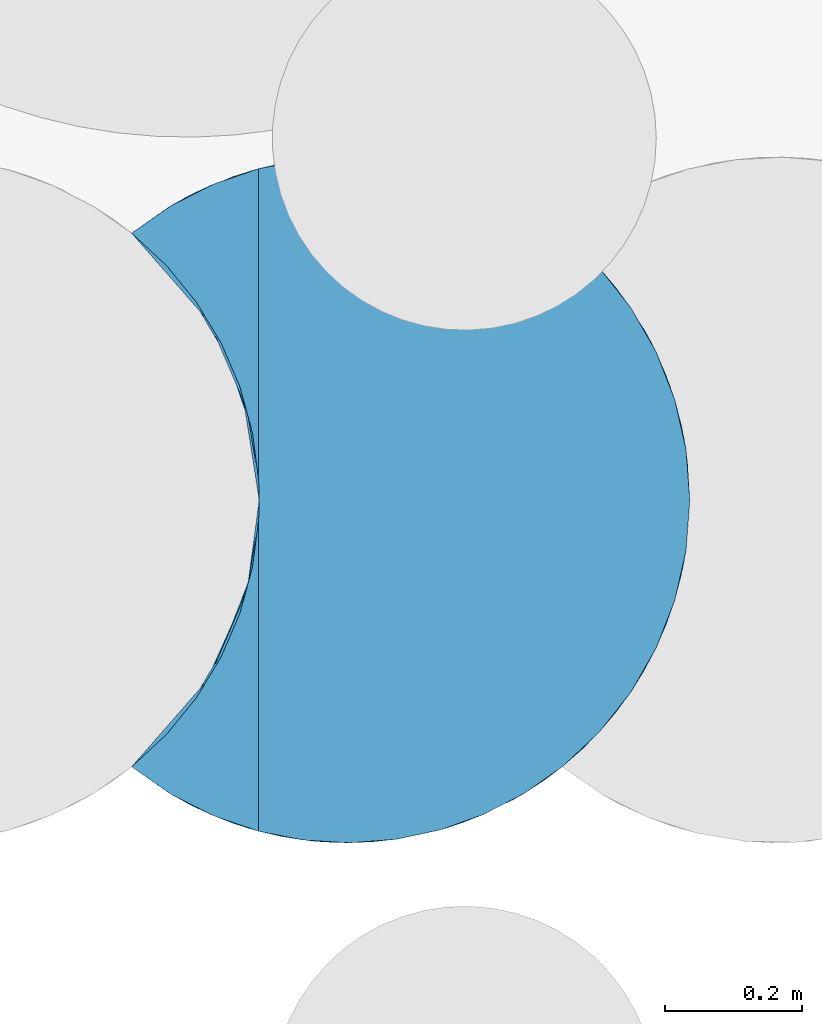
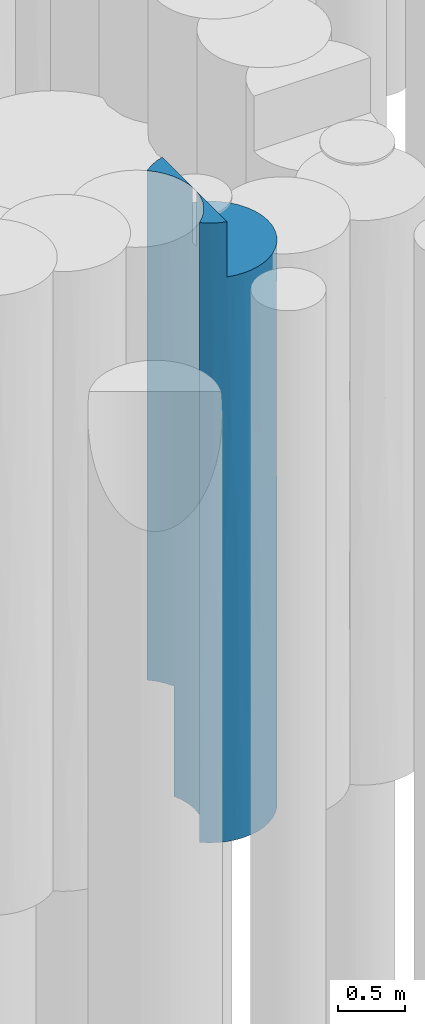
# One storey, part 23 of 104: 1 pile.
"""IFC2X3 building model written with IfcOpenShell, lengths in millimetres."""

from ifc_helpers import new_model, entity, si_unit, converted_unit, derived_unit, direction, frame, origin, place, context, subcontext, project, spatial, faceted_brep, source, transform, mapped, material, element, save


model = new_model("IFC2X3")

# Units and contexts
model_context = context("Model", 3, precision=0.01, world=origin(), true_north=direction((6.12303176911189e-17, 1.0)))
body_context = subcontext(model_context, "Body", "Model", "MODEL_VIEW")
ifc_project = project(units=[si_unit("LENGTHUNIT", "METRE", prefix="MILLI"), si_unit("AREAUNIT", "SQUARE_METRE", prefix="MILLI"), si_unit("VOLUMEUNIT", "CUBIC_METRE"), converted_unit("PLANEANGLEUNIT", "DEGREE", entity("IfcRatioMeasure", 0.0174532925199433), si_unit("PLANEANGLEUNIT", "RADIAN"), dimensions=[0, 0, 0, 0, 0, 0, 0]), si_unit("MASSUNIT", "GRAM", prefix="KILO"), derived_unit("MASSDENSITYUNIT", [(si_unit("MASSUNIT", "GRAM", prefix="KILO"), 1), (si_unit("LENGTHUNIT", "METRE"), -3)]), derived_unit("MOMENTOFINERTIAUNIT", [(si_unit("LENGTHUNIT", "METRE"), 4)]), si_unit("TIMEUNIT", "SECOND"), si_unit("FREQUENCYUNIT", "HERTZ"), si_unit("THERMODYNAMICTEMPERATUREUNIT", "DEGREE_CELSIUS"), derived_unit("THERMALTRANSMITTANCEUNIT", [(si_unit("MASSUNIT", "GRAM", prefix="KILO"), 1), (si_unit("THERMODYNAMICTEMPERATUREUNIT", "KELVIN"), -1), (si_unit("TIMEUNIT", "SECOND"), -3)]), derived_unit("VOLUMETRICFLOWRATEUNIT", [(si_unit("LENGTHUNIT", "METRE"), 3), (si_unit("TIMEUNIT", "SECOND"), -1)]), si_unit("ELECTRICCURRENTUNIT", "AMPERE"), si_unit("ELECTRICVOLTAGEUNIT", "VOLT"), si_unit("POWERUNIT", "WATT"), si_unit("FORCEUNIT", "NEWTON", prefix="KILO"), si_unit("ILLUMINANCEUNIT", "LUX"), si_unit("LUMINOUSFLUXUNIT", "LUMEN"), si_unit("LUMINOUSINTENSITYUNIT", "CANDELA"), derived_unit("USERDEFINED", [(si_unit("MASSUNIT", "GRAM", prefix="KILO"), -1), (si_unit("LENGTHUNIT", "METRE"), -2), (si_unit("TIMEUNIT", "SECOND"), 3), (si_unit("LUMINOUSFLUXUNIT", "LUMEN"), 1)]), derived_unit("LINEARVELOCITYUNIT", [(si_unit("LENGTHUNIT", "METRE"), 1), (si_unit("TIMEUNIT", "SECOND"), -1)]), si_unit("PRESSUREUNIT", "PASCAL"), derived_unit("USERDEFINED", [(si_unit("LENGTHUNIT", "METRE"), -2), (si_unit("MASSUNIT", "GRAM", prefix="KILO"), 1), (si_unit("TIMEUNIT", "SECOND"), -2)]), derived_unit("LINEARFORCEUNIT", [(si_unit("MASSUNIT", "GRAM", prefix="KILO"), 1), (si_unit("LENGTHUNIT", "METRE"), 1), (si_unit("TIMEUNIT", "SECOND"), -2), (si_unit("LENGTHUNIT", "METRE"), -1)]), derived_unit("PLANARFORCEUNIT", [(si_unit("MASSUNIT", "GRAM", prefix="KILO"), 1), (si_unit("LENGTHUNIT", "METRE"), 1), (si_unit("TIMEUNIT", "SECOND"), -2), (si_unit("LENGTHUNIT", "METRE"), -2)])], contexts=[model_context])

# Site, building, storey
site_placement = place(None, origin())
site = spatial("IfcSite", under=ifc_project, at=site_placement, Name="Theater aan de Parade", CompositionType="ELEMENT")
building_placement = place(site_placement, origin())
building = spatial("IfcBuilding", under=site, at=building_placement, Name="Theater aan de Parade", CompositionType="ELEMENT")
storey_placement = place(building_placement, frame((0.0, 0.0, -5520.0)))
storey = spatial("IfcBuildingStorey", under=building, at=storey_placement, Name="-2 kelder", CompositionType="ELEMENT", Elevation=-5520.0)

# Pile
ifc_material = material(Name="00_PBT_MAT_grout")
shared_shape = source(origin(), body_context, "Body", "Brep", [
    faceted_brep([(786.691195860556, 669.132225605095, 0.0), (802.676759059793, 614.518366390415, 0.0), (812.351470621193, 558.457204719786, 0.0), (815.595272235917, 501.595272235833, 0.0), (810.081014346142, 427.542244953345, 0.0), (793.660970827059, 355.126204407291, 0.0), (766.697585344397, 285.941143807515, 0.0), (729.786240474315, 221.513423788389, 0.0), (683.741416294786, 163.263457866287, 0.0), (629.573708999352, 112.471523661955, 0.0), (574.005639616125, 73.5484499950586, 0.0), (513.679312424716, 42.5062688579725, 0.0), (449.710167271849, 19.9177920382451, 0.0), (383.274865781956, 6.19697528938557, 0.0), (315.594989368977, 1.5952722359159, 0.0), (247.914799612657, 6.1970953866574, 0.0), (181.478594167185, 19.9182884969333, 0.0), (117.508224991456, 42.5075663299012, 0.0), (57.1823898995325, 73.5499682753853, 0.0), (1.5952722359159, 112.48860305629, 0.0), (55.7556313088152, 163.278926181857, 0.0), (101.79731605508, 221.529803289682, 0.0), (138.705014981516, 285.956685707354, 0.0), (165.664839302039, 355.138831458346, 0.0), (182.082270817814, 427.550635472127, 0.0), (187.595272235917, 501.595272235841, 0.0), (184.351856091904, 558.453837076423, 0.0), (174.676819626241, 614.518105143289, 0.0), (158.690674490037, 669.133691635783, 0.0), (136.59415864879, 721.595272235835, 0.0), (764.59415864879, 721.595272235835, 0.0), (805.400778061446, 602.047083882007, 1052.90991735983), (764.59415864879, 721.595272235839, 1000.0), (353.035607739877, 1000.19152300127, 4111.50869378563), (386.388234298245, 996.558257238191, 5120.0), (451.985086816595, 982.633543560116, 5120.0), (815.595272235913, 501.595272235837, 1561.53772693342), (797.031915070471, 636.572155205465, 2060.76883555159), (749.443768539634, 750.142012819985, 3128.75452740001), (686.69262929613, 836.687426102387, 3099.17135995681), (707.851990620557, 811.651181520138, 4036.55208434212), (815.595272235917, 501.595272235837, 2560.0), (815.595272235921, 501.595272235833, 1996.92458813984), (602.467115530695, 911.112726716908, 2006.09720058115), (602.467114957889, 911.112727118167, 3059.4628946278), (760.131786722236, 730.477965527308, 1932.96692356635), (727.977154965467, 784.333990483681, 1000.0), (706.349146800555, 813.543039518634, 2154.94352261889), (91.422474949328, 948.525419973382, 4578.08827164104), (1.5952722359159, 890.70194141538, 4123.06351183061), (1.5952722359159, 890.70194141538, 5620.0), (793.461780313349, 648.712913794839, 3073.6649481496), (629.59527223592, 890.70194141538, 5120.0), (602.786796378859, 910.888600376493, 4112.81016314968), (574.684586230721, 929.231481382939, 5120.0), (319.514410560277, 1001.5799123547, 5120.0), (682.65649192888, 841.103830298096, 1000.0), (629.595272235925, 890.70194141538, 1000.0), (574.01643850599, 929.635575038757, 1000.0), (781.468058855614, 683.151177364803, 4036.5513019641), (349.517904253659, 1000.44320000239, 3057.43275080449), (247.562892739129, 996.945244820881, 2986.98921015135), (120.847847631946, 962.109594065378, 5620.0), (58.7364187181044, 930.574909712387, 5620.0), (683.747221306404, 839.920769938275, 5120.0), (793.662916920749, 648.057987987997, 5120.0), (766.701125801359, 717.241994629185, 5120.0), (449.719299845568, 983.270209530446, 1000.0), (383.281381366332, 996.992679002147, 1000.0), (384.174934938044, 996.869771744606, 2166.81848137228), (281.678049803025, 1000.44356783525, 2099.64891102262), (181.90253085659, 983.390094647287, 1970.35886895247), (729.791175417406, 781.669822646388, 5120.0), (483.935571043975, 972.404728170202, 3745.79894218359), (482.088212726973, 973.061178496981, 2355.24061279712), (515.128213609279, 960.056399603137, 5120.0), (513.689946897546, 960.679686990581, 1000.0), (78.5399848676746, 941.827927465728, 3576.06960856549), (1.5952722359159, 890.701941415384, 2561.5317559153), (1.59527223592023, 890.70194141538, 4058.46208229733), (315.598129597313, 1001.59527222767, 1000.0), (149.104149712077, 973.061820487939, 2856.30297323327), (247.914247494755, 996.993373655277, 1000.0), (181.474504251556, 983.27111717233, 1000.0), (86.8102220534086, 946.182047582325, 2006.78312381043), (252.569040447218, 997.607060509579, 5120.0), (1.59527223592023, 890.701941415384, 1000.0), (1.5952722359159, 890.70194141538, 2496.92565061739), (219.436476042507, 992.261641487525, 3909.86390350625), (186.737142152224, 984.705593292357, 5120.0), (815.595272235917, 501.595272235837, 5120.0), (806.966949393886, 594.082432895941, 3793.52030173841), (810.081699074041, 575.643727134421, 5120.0), (815.595272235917, 501.595272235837, 3558.46227306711), (186.737142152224, 984.705593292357, 5620.0), (57.1737559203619, 929.635363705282, 1000.0), (117.501033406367, 960.679875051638, 1000.0), (815.595272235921, 501.595272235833, 998.462294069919), (281.676761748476, 2.74706421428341, 1311.10439910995), (781.468059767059, 320.039369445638, 4144.24595699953), (766.701125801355, 285.948549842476, 5120.0), (729.791175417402, 221.520721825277, 5120.0), (149.109844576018, 30.126712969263, 883.608667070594), (87.6154836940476, 56.5950295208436, 3434.23114641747), (1.5952722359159, 112.488603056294, 4058.47705413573), (1.59527223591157, 112.488603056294, 2810.0), (805.37558434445, 401.020693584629, 3627.35967398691), (781.468059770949, 320.039369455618, 3110.47339083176), (389.232437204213, 7.04743032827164, 1028.9117219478), (803.217151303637, 391.028988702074, 1232.03292221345), (807.740813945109, 413.318628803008, 2612.29853787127), (186.73714215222, 18.4849511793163, 5120.0), (219.436476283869, 10.9289029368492, 3576.03701373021), (252.569040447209, 5.58348396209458, 5120.0), (149.109844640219, 30.1267129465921, 1820.65840063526), (749.439539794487, 253.041150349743, 1611.47775037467), (749.439539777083, 253.041150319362, 769.563987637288), (1.59527223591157, 112.488603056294, 1405.0), (482.078283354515, 30.1258596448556, 1564.215584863), (82.4110769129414, 59.2999737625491, 2489.44110454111), (1.59527223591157, 112.488603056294, 5620.0), (90.4896465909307, 55.1342355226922, 4565.79676839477), (58.7364187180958, 72.6156347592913, 5620.0), (186.737142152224, 18.4849511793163, 5620.0), (120.847847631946, 41.0809504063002, 5620.0), (558.374936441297, 64.4934137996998, 2689.42102438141), (657.606519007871, 136.86481411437, 2559.99099076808), (606.875679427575, 95.2017137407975, 3698.52004493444), (657.606518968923, 136.864814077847, 1257.22934192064), (353.379201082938, 3.02494146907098, 3817.38478128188), (174.27660137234, 21.981851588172, 2733.53846802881), (515.128213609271, 43.1341448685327, 5120.0), (574.684586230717, 73.9590630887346, 5120.0), (263.302378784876, 4.33733786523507, 2839.57625241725), (319.514410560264, 1.61063211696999, 5120.0), (569.712845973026, 70.9861005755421, 1034.54835012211), (349.513058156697, 2.74701494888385, 2557.93272325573), (810.081699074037, 427.546817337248, 5120.0), (707.851991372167, 191.53936390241, 3771.6717284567), (732.810207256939, 226.038203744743, 2649.3574201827), (451.985086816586, 20.557000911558, 5120.0), (483.935571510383, 30.7858164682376, 3544.85792067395), (457.749968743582, 22.2289798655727, 2564.41272478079), (793.662916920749, 355.132556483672, 5120.0), (683.747221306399, 163.26977453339, 5120.0), (629.595272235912, 112.488603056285, 5120.0), (386.38823429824, 6.63228723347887, 5120.0), (600.996678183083, 91.0516844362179, 1891.1204829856), (1.5952722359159, 112.48860305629, 2496.92458727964), (1.5952722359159, 112.48860305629, 1561.53770636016), (96.2650811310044, 789.673364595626, 5620.0), (132.212497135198, 730.321141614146, 5620.0), (159.596050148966, 666.565771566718, 5620.0), (177.889281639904, 599.634980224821, 5620.0), (186.737142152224, 530.87655800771, 5620.0), (52.4461855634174, 843.478016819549, 5620.0), (186.737142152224, 472.313986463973, 5620.0), (177.889281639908, 403.555564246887, 5620.0), (159.59605014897, 336.624772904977, 5620.0), (132.212497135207, 272.869402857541, 5620.0), (96.2650811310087, 213.517179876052, 5620.0), (52.4461855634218, 159.712527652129, 5620.0), (177.678975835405, 600.680909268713, 1044.32342529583), (187.595272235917, 501.595272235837, 3558.46227260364), (187.595272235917, 501.595272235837, 5120.0), (187.380693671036, 516.242200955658, 5120.0), (115.269636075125, 760.621600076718, 4613.08676393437), (169.905075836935, 633.418082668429, 4613.08980160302), (177.488289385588, 601.619428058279, 3722.62579793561), (147.011561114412, 698.919050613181, 3771.36261934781), (65.1859049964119, 829.353283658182, 1962.20427220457), (54.6608621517, 841.09910535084, 1000.0), (186.737142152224, 530.876558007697, 5120.0), (99.9793152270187, 784.330839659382, 1000.0), (163.374086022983, 655.330500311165, 2951.82198452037), (170.937407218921, 629.58113297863, 2060.76883821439), (119.427502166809, 753.628851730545, 2422.80863918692), (136.59415864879, 721.595272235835, 1000.0), (82.9285982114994, 807.718713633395, 3552.17049892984), (187.595272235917, 501.595272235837, 2560.0), (187.595272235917, 501.595272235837, 1561.53772739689), (187.595272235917, 501.595272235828, 1996.92458809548), (187.595272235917, 501.595272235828, 998.46229404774), (147.011562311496, 304.271496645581, 3771.36263054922), (169.905076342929, 369.772463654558, 4613.08980050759), (177.488290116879, 401.571119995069, 3722.62581199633), (121.44873577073, 253.057202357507, 1808.74544348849), (79.8592440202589, 191.54853956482, 1001.05470490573), (64.5296340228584, 173.082735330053, 2029.23114692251), (169.839436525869, 369.532537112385, 2573.09548878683), (175.219549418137, 391.039565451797, 1231.98551242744), (115.269636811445, 242.568945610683, 4613.08676523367), (82.9285992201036, 195.471832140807, 3552.17049770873), (187.380693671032, 486.948343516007, 5120.0), (133.637319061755, 275.660563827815, 916.694275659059), (186.737142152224, 472.313986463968, 5120.0), (106.654092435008, 228.850510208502, 2701.59486310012)], [[[0, 1, 2, 3, 4, 5, 6, 7, 8, 9, 10, 11, 12, 13, 14, 15, 16, 17, 18, 19, 20, 21, 22, 23, 24, 25, 26, 27, 28, 29, 30]], [[31, 0, 32]], [[33, 34, 35]], [[36, 31, 37]], [[38, 39, 40]], [[37, 41, 42, 36]], [[43, 44, 39]], [[45, 46, 47]], [[48, 49, 50]], [[38, 51, 45]], [[52, 53, 54]], [[34, 33, 55]], [[43, 47, 56]], [[57, 58, 43]], [[0, 30, 32]], [[51, 38, 59]], [[2, 1, 31]], [[33, 60, 61]], [[62, 48, 63]], [[64, 53, 52]], [[65, 59, 66]], [[67, 68, 69]], [[70, 71, 61]], [[40, 39, 53]], [[46, 56, 47]], [[59, 40, 66]], [[72, 66, 40]], [[73, 60, 33]], [[38, 40, 59]], [[64, 72, 40]], [[44, 74, 73]], [[43, 74, 44]], [[70, 61, 60]], [[73, 75, 53]], [[38, 47, 39]], [[67, 74, 76]], [[77, 78, 79, 49]], [[70, 60, 69]], [[3, 2, 31]], [[80, 70, 69]], [[51, 37, 45]], [[81, 61, 71]], [[43, 58, 76]], [[60, 74, 69]], [[71, 82, 83]], [[43, 56, 57]], [[76, 74, 43]], [[81, 71, 84]], [[73, 53, 44]], [[33, 85, 55]], [[50, 63, 48]], [[84, 86, 87, 78]], [[54, 53, 75]], [[73, 35, 75]], [[33, 35, 73]], [[88, 89, 85]], [[80, 82, 70]], [[85, 33, 88]], [[90, 91, 92]], [[90, 93, 91]], [[94, 89, 62]], [[62, 89, 48]], [[48, 77, 49]], [[86, 84, 95]], [[51, 41, 37]], [[95, 84, 96]], [[91, 65, 92]], [[84, 71, 96]], [[37, 31, 32]], [[77, 84, 78]], [[73, 74, 60]], [[45, 37, 32]], [[53, 64, 40]], [[89, 88, 48]], [[77, 88, 81]], [[88, 77, 48]], [[77, 81, 84]], [[59, 91, 51]], [[41, 51, 93]], [[82, 71, 70]], [[96, 71, 83]], [[91, 59, 65]], [[93, 51, 91]], [[43, 39, 47]], [[53, 39, 44]], [[67, 69, 74]], [[80, 69, 68]], [[81, 88, 61]], [[33, 61, 88]], [[31, 36, 97, 3]], [[31, 1, 0]], [[46, 45, 32]], [[38, 45, 47]], [[98, 15, 14]], [[99, 100, 101]], [[17, 16, 102]], [[103, 104, 105]], [[102, 18, 17]], [[106, 99, 107]], [[98, 14, 108]], [[109, 42, 110]], [[111, 112, 113]], [[102, 16, 15]], [[102, 98, 114]], [[109, 115, 116]], [[117, 102, 114]], [[118, 12, 11]], [[12, 118, 108]], [[119, 117, 114]], [[120, 104, 121]], [[122, 120, 121]], [[111, 123, 124]], [[125, 126, 127]], [[117, 18, 102]], [[103, 121, 104]], [[128, 8, 116]], [[129, 113, 112]], [[119, 130, 103]], [[131, 127, 132]], [[133, 129, 112]], [[121, 124, 122]], [[134, 113, 129]], [[133, 112, 130]], [[135, 9, 128]], [[112, 111, 121]], [[136, 98, 108]], [[90, 137, 93]], [[135, 10, 9]], [[8, 7, 116]], [[128, 9, 8]], [[138, 107, 99]], [[121, 111, 124]], [[115, 109, 110]], [[98, 136, 133]], [[19, 18, 117]], [[102, 15, 98]], [[116, 5, 109]], [[14, 13, 108]], [[139, 138, 126]], [[137, 99, 106]], [[4, 97, 109]], [[131, 140, 141]], [[136, 142, 129]], [[141, 127, 131]], [[141, 125, 127]], [[143, 99, 137]], [[116, 7, 6]], [[127, 144, 145]], [[93, 106, 110]], [[144, 138, 101]], [[135, 11, 10]], [[138, 127, 126]], [[4, 109, 5]], [[141, 142, 125]], [[143, 100, 99]], [[99, 101, 138]], [[115, 126, 128, 116]], [[129, 140, 146]], [[126, 125, 147]], [[107, 139, 115]], [[116, 6, 5]], [[119, 103, 105]], [[112, 121, 103]], [[144, 127, 138]], [[132, 127, 145]], [[110, 106, 107]], [[137, 106, 93]], [[110, 107, 115]], [[110, 42, 41, 93]], [[141, 129, 142]], [[118, 135, 147]], [[136, 118, 142]], [[118, 125, 142]], [[119, 105, 148, 149, 117]], [[130, 119, 114]], [[114, 98, 133]], [[103, 130, 112]], [[133, 130, 114]], [[129, 133, 136]], [[140, 129, 141]], [[134, 129, 146]], [[138, 139, 107]], [[126, 115, 139]], [[12, 108, 13]], [[136, 108, 118]], [[147, 135, 128]], [[11, 135, 118]], [[126, 147, 128]], [[118, 147, 125]], [[97, 4, 3]], [[109, 97, 36, 42]], [[150, 151, 152, 153, 154, 94, 62, 63, 50, 155]], [[123, 156, 157, 158, 159, 160, 161, 120, 122, 124]], [[162, 27, 26]], [[163, 164, 165]], [[151, 166, 167]], [[168, 167, 169]], [[162, 26, 25]], [[150, 166, 151]], [[155, 50, 49, 79]], [[166, 150, 155]], [[170, 86, 171]], [[172, 154, 153]], [[169, 167, 166]], [[171, 173, 170]], [[168, 169, 174]], [[79, 166, 155]], [[175, 176, 177]], [[169, 166, 178]], [[29, 28, 177]], [[163, 172, 168]], [[170, 87, 86]], [[177, 162, 175]], [[167, 172, 153]], [[179, 174, 175]], [[167, 168, 172]], [[175, 180, 181, 179]], [[165, 172, 163]], [[167, 153, 152]], [[173, 177, 176]], [[167, 152, 151]], [[178, 176, 169]], [[169, 176, 174]], [[166, 79, 178]], [[178, 79, 78, 87]], [[170, 176, 178]], [[177, 28, 162]], [[179, 163, 168]], [[162, 180, 175]], [[168, 174, 179]], [[175, 174, 176]], [[162, 25, 182, 180]], [[28, 27, 162]], [[87, 170, 178]], [[176, 170, 173]], [[183, 184, 185]], [[186, 187, 188]], [[186, 189, 190]], [[160, 191, 161]], [[104, 191, 192]], [[23, 190, 24]], [[193, 164, 163]], [[21, 20, 187]], [[187, 20, 19]], [[183, 191, 184]], [[185, 163, 189]], [[160, 159, 191]], [[187, 194, 21]], [[187, 19, 117, 149]], [[158, 157, 184]], [[188, 149, 148]], [[184, 191, 159]], [[193, 163, 195]], [[21, 194, 22]], [[185, 184, 195]], [[148, 192, 196]], [[184, 159, 158]], [[190, 182, 24]], [[195, 157, 156]], [[183, 192, 191]], [[181, 190, 189]], [[191, 104, 161]], [[104, 120, 161]], [[187, 186, 194]], [[184, 157, 195]], [[194, 190, 23]], [[192, 148, 105, 104]], [[196, 188, 148]], [[189, 163, 179, 181]], [[196, 183, 189]], [[149, 188, 187]], [[196, 186, 188]], [[186, 196, 189]], [[196, 192, 183]], [[183, 185, 189]], [[163, 185, 195]], [[22, 194, 23]], [[194, 186, 190]], [[25, 24, 182]], [[190, 181, 180, 182]], [[172, 165, 164, 193, 195, 111, 113, 134, 146, 140, 131, 132, 145, 144, 101, 100, 143, 137, 90, 92, 65, 66, 72, 64, 52, 54, 75, 35, 34, 55, 85, 89]], [[89, 94, 154, 172]], [[195, 156, 123, 111]], [[95, 96, 83, 82, 80, 68, 67, 76, 58, 57, 56, 46, 32, 177, 173, 171, 86]], [[177, 32, 30, 29]]]),
])
pile_placement = place(storey_placement, frame((37778.2628578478, 22160.7721311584, -3840.0)))
element("IfcPile", 1, at=pile_placement, inside=storey, material=ifc_material, Name="17_PBT_SFO_grondkering_rond:Ø1000 (grondkering)", ObjectType="17_PBT_SFO_grondkering_rond:Ø1000 (grondkering)", PredefinedType="NOTDEFINED", context=body_context, shape_type="MappedRepresentation", body=[
    mapped(shared_shape, transform((0.0, 0.0, 0.0), scale=1.0)),
])

save(model, "model.ifc")
